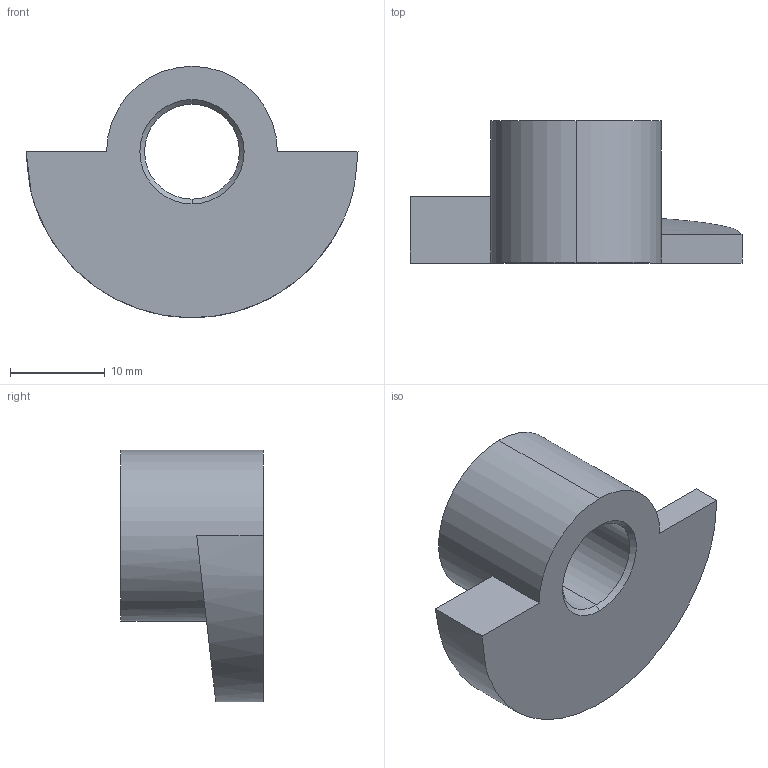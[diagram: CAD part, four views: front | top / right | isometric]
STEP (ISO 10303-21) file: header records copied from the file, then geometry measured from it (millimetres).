
FILE_DESCRIPTION (( 'STEP AP203' ), '1' );
FILE_NAME ('Wiberger-gn218_r_35x10.step', '2014-08-05T06:37:39', ( 'Magnus' ), ( 'Microsoft' ), 'SwSTEP 2.0', 'SolidWorks 2014', '' );
FILE_SCHEMA (( 'CONFIG_CONTROL_DESIGN' ));
Length unit declared in the file: millimetre
Products named in the file (1): Wiberger-gn218_r_35x10
Bounding box: 35 x 15 x 26.49 mm (x, y, z)
Volume: 4397.9 mm3; surface area: 2581 mm2
Topology: 1 solids, 1 shells, 14 faces, 32 edges, 20 vertices
Faces by surface type: cone 4, cylinder 4, plane 4, bspline 2
Entity records: 607 total; most frequent: CARTESIAN_POINT 211, DIRECTION 66, ORIENTED_EDGE 64, EDGE_CURVE 32, AXIS2_PLACEMENT_3D 25, VERTEX_POINT 20, LINE 16, VECTOR 16
